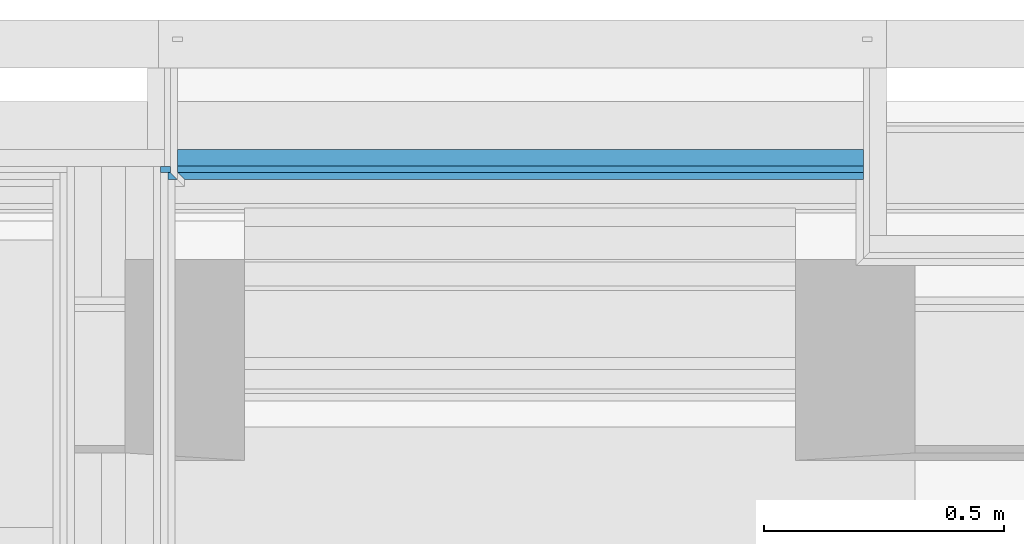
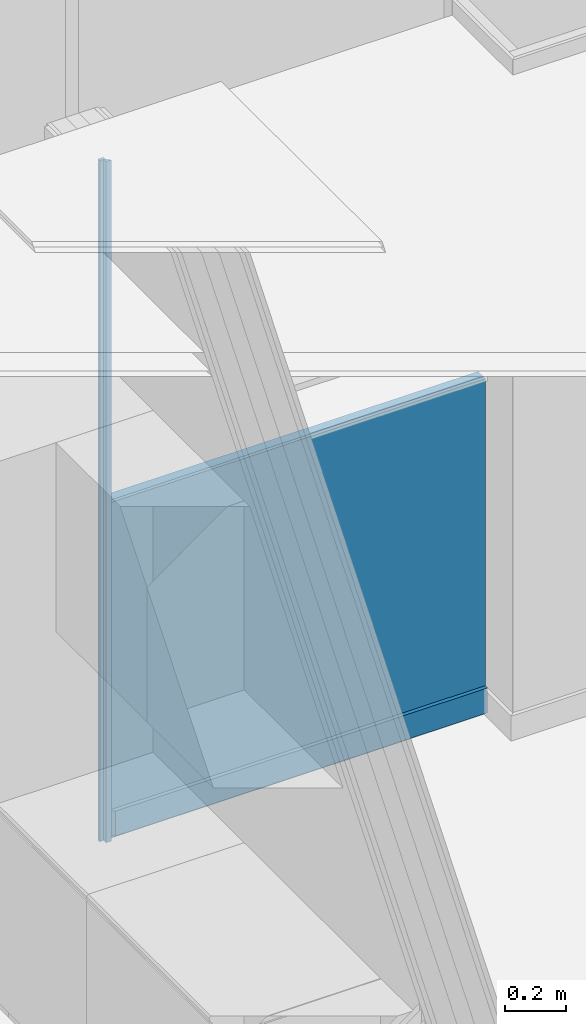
# One storey, part 28 of 169: 5 building element parts, 2 elements without a shape of their own.
"""IFC2X3 building model written with IfcOpenShell, lengths in metres."""

from ifc_helpers import new_model, entity, si_unit, converted_unit, derived_unit, money_unit, direction, frame, frame_2d, origin_with_axes, place, context, subcontext, project, spatial, polyline, rectangle, outline, extrude, material, type_object, element, aggregate, save


model = new_model("IFC2X3")

# Units and contexts
model_context = context("Model", 3, precision=1e-05, world=origin_with_axes(), true_north=direction((0.0, 1.0)))
body_context = subcontext(model_context, "Body", "Model", "MODEL_VIEW", scale=1.0)
ifc_project = project(units=[si_unit("LENGTHUNIT", "METRE"), si_unit("AREAUNIT", "SQUARE_METRE"), si_unit("VOLUMEUNIT", "CUBIC_METRE"), si_unit("ABSORBEDDOSEUNIT", "GRAY"), si_unit("AMOUNTOFSUBSTANCEUNIT", "MOLE"), si_unit("DOSEEQUIVALENTUNIT", "SIEVERT"), si_unit("ELECTRICCAPACITANCEUNIT", "FARAD"), si_unit("ELECTRICCHARGEUNIT", "COULOMB"), si_unit("ELECTRICCONDUCTANCEUNIT", "SIEMENS"), si_unit("ELECTRICCURRENTUNIT", "AMPERE"), si_unit("ELECTRICRESISTANCEUNIT", "OHM"), si_unit("ELECTRICVOLTAGEUNIT", "VOLT"), si_unit("ENERGYUNIT", "JOULE"), si_unit("FORCEUNIT", "NEWTON"), si_unit("FREQUENCYUNIT", "HERTZ"), si_unit("ILLUMINANCEUNIT", "LUX"), si_unit("INDUCTANCEUNIT", "HENRY"), si_unit("LUMINOUSFLUXUNIT", "LUMEN"), si_unit("LUMINOUSINTENSITYUNIT", "CANDELA"), si_unit("MAGNETICFLUXDENSITYUNIT", "TESLA"), si_unit("MAGNETICFLUXUNIT", "WEBER"), si_unit("MASSUNIT", "GRAM"), converted_unit("PLANEANGLEUNIT", "degree", entity("IfcReal", 0.0174532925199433), si_unit("PLANEANGLEUNIT", "RADIAN"), dimensions=[0, 0, 0, 0, 0, 0, 0]), si_unit("POWERUNIT", "WATT"), si_unit("PRESSUREUNIT", "PASCAL"), si_unit("RADIOACTIVITYUNIT", "BECQUEREL"), si_unit("SOLIDANGLEUNIT", "STERADIAN"), si_unit("THERMODYNAMICTEMPERATUREUNIT", "KELVIN"), si_unit("TIMEUNIT", "SECOND"), derived_unit("ACCELERATIONUNIT", [(si_unit("LENGTHUNIT", "METRE"), 1), (si_unit("TIMEUNIT", "SECOND"), -2)]), derived_unit("ANGULARVELOCITYUNIT", [(converted_unit("PLANEANGLEUNIT", "degree", entity("IfcReal", 0.0174532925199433), si_unit("PLANEANGLEUNIT", "RADIAN"), dimensions=[0, 0, 0, 0, 0, 0, 0]), 1), (si_unit("TIMEUNIT", "SECOND"), -1)]), derived_unit("CURVATUREUNIT", [(converted_unit("PLANEANGLEUNIT", "degree", entity("IfcReal", 0.0174532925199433), si_unit("PLANEANGLEUNIT", "RADIAN"), dimensions=[0, 0, 0, 0, 0, 0, 0]), 1), (si_unit("LENGTHUNIT", "METRE"), -1)]), derived_unit("DYNAMICVISCOSITYUNIT", [(si_unit("PRESSUREUNIT", "PASCAL"), 1), (si_unit("TIMEUNIT", "SECOND"), 1)]), derived_unit("HEATFLUXDENSITYUNIT", [(si_unit("POWERUNIT", "WATT"), 1), (si_unit("LENGTHUNIT", "METRE"), -2)]), derived_unit("HEATINGVALUEUNIT", [(si_unit("ENERGYUNIT", "JOULE"), 1), (si_unit("MASSUNIT", "GRAM"), -1)]), derived_unit("INTEGERCOUNTRATEUNIT", [(si_unit("TIMEUNIT", "SECOND"), -1)]), derived_unit("IONCONCENTRATIONUNIT", [(si_unit("MASSUNIT", "GRAM"), 1), (si_unit("VOLUMEUNIT", "CUBIC_METRE"), -1)]), derived_unit("ISOTHERMALMOISTURECAPACITYUNIT", [(si_unit("VOLUMEUNIT", "CUBIC_METRE"), 1), (si_unit("MASSUNIT", "GRAM"), -1)]), derived_unit("KINEMATICVISCOSITYUNIT", [(si_unit("AREAUNIT", "SQUARE_METRE"), 1), (si_unit("TIMEUNIT", "SECOND"), -1)]), derived_unit("LINEARFORCEUNIT", [(si_unit("FORCEUNIT", "NEWTON"), 1), (si_unit("LENGTHUNIT", "METRE"), -1)]), derived_unit("LINEARMOMENTUNIT", [(si_unit("FORCEUNIT", "NEWTON"), 1), (si_unit("LENGTHUNIT", "METRE"), -1)]), derived_unit("LINEARSTIFFNESSUNIT", [(si_unit("FORCEUNIT", "NEWTON"), 1), (si_unit("LENGTHUNIT", "METRE"), -1)]), derived_unit("LINEARVELOCITYUNIT", [(si_unit("LENGTHUNIT", "METRE"), 1), (si_unit("TIMEUNIT", "SECOND"), -1)]), derived_unit("LUMINOUSINTENSITYDISTRIBUTIONUNIT", [(si_unit("LUMINOUSINTENSITYUNIT", "CANDELA"), 1), (si_unit("LUMINOUSFLUXUNIT", "LUMEN"), -1)]), derived_unit("MASSDENSITYUNIT", [(si_unit("MASSUNIT", "GRAM"), 1), (si_unit("VOLUMEUNIT", "CUBIC_METRE"), -1)]), derived_unit("MASSFLOWRATEUNIT", [(si_unit("MASSUNIT", "GRAM"), 1), (si_unit("TIMEUNIT", "SECOND"), -1)]), derived_unit("MASSPERLENGTHUNIT", [(si_unit("MASSUNIT", "GRAM"), 1), (si_unit("LENGTHUNIT", "METRE"), -1)]), derived_unit("MODULUSOFELASTICITYUNIT", [(si_unit("FORCEUNIT", "NEWTON"), 1), (si_unit("AREAUNIT", "SQUARE_METRE"), -1)]), derived_unit("MODULUSOFLINEARSUBGRADEREACTIONUNIT", [(si_unit("FORCEUNIT", "NEWTON"), 1), (si_unit("LENGTHUNIT", "METRE"), -2)]), derived_unit("MODULUSOFROTATIONALSUBGRADEREACTIONUNIT", [(si_unit("FORCEUNIT", "NEWTON"), 1), (si_unit("LENGTHUNIT", "METRE"), 1)]), derived_unit("MODULUSOFSUBGRADEREACTIONUNIT", [(si_unit("FORCEUNIT", "NEWTON"), 1), (si_unit("VOLUMEUNIT", "CUBIC_METRE"), -1)]), derived_unit("MOISTUREDIFFUSIVITYUNIT", [(si_unit("VOLUMEUNIT", "CUBIC_METRE"), 1), (si_unit("TIMEUNIT", "SECOND"), -1)]), derived_unit("MOLECULARWEIGHTUNIT", [(si_unit("MASSUNIT", "GRAM"), 1), (si_unit("AMOUNTOFSUBSTANCEUNIT", "MOLE"), -1)]), derived_unit("PLANARFORCEUNIT", [(si_unit("FORCEUNIT", "NEWTON"), 1), (si_unit("LENGTHUNIT", "METRE"), -2)]), derived_unit("ROTATIONALFREQUENCYUNIT", [(si_unit("TIMEUNIT", "SECOND"), -1)]), derived_unit("ROTATIONALMASSUNIT", [(si_unit("MASSUNIT", "GRAM"), 1), (si_unit("LENGTHUNIT", "METRE"), 2)]), derived_unit("ROTATIONALSTIFFNESSUNIT", [(si_unit("FORCEUNIT", "NEWTON"), 1), (si_unit("LENGTHUNIT", "METRE"), 1), (converted_unit("PLANEANGLEUNIT", "degree", entity("IfcReal", 0.0174532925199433), si_unit("PLANEANGLEUNIT", "RADIAN"), dimensions=[0, 0, 0, 0, 0, 0, 0]), -1)]), derived_unit("SECTIONAREAINTEGRALUNIT", [(si_unit("LENGTHUNIT", "METRE"), 5)]), derived_unit("SECTIONMODULUSUNIT", [(si_unit("LENGTHUNIT", "METRE"), 3)]), derived_unit("SHEARMODULUSUNIT", [(si_unit("FORCEUNIT", "NEWTON"), 1), (si_unit("AREAUNIT", "SQUARE_METRE"), -1)]), derived_unit("SOUNDPOWERUNIT", [(si_unit("ENERGYUNIT", "JOULE"), 1), (si_unit("TIMEUNIT", "SECOND"), -1)]), derived_unit("SPECIFICHEATCAPACITYUNIT", [(si_unit("FORCEUNIT", "NEWTON"), 1), (si_unit("MASSUNIT", "GRAM"), -1), (si_unit("THERMODYNAMICTEMPERATUREUNIT", "KELVIN"), -1)]), derived_unit("TEMPERATUREGRADIENTUNIT", [(si_unit("THERMODYNAMICTEMPERATUREUNIT", "KELVIN"), 1), (si_unit("LENGTHUNIT", "METRE"), -1)]), derived_unit("THERMALADMITTANCEUNIT", [(si_unit("POWERUNIT", "WATT"), 1), (si_unit("AREAUNIT", "SQUARE_METRE"), -1), (si_unit("THERMODYNAMICTEMPERATUREUNIT", "KELVIN"), -1)]), derived_unit("THERMALCONDUCTANCEUNIT", [(si_unit("POWERUNIT", "WATT"), 1), (si_unit("LENGTHUNIT", "METRE"), -1), (si_unit("THERMODYNAMICTEMPERATUREUNIT", "KELVIN"), -1)]), derived_unit("THERMALEXPANSIONCOEFFICIENTUNIT", [(si_unit("THERMODYNAMICTEMPERATUREUNIT", "KELVIN"), -1)]), derived_unit("THERMALRESISTANCEUNIT", [(si_unit("AREAUNIT", "SQUARE_METRE"), 1), (si_unit("POWERUNIT", "WATT"), -1)]), derived_unit("THERMALTRANSMITTANCEUNIT", [(si_unit("POWERUNIT", "WATT"), 1), (si_unit("AREAUNIT", "SQUARE_METRE"), -1), (si_unit("THERMODYNAMICTEMPERATUREUNIT", "KELVIN"), -1)]), derived_unit("TORQUEUNIT", [(si_unit("FORCEUNIT", "NEWTON"), 1), (si_unit("LENGTHUNIT", "METRE"), 1)]), derived_unit("VAPORPERMEABILITYUNIT", [(si_unit("MASSUNIT", "GRAM"), 1), (si_unit("TIMEUNIT", "SECOND"), -1)]), derived_unit("VOLUMETRICFLOWRATEUNIT", [(si_unit("VOLUMEUNIT", "CUBIC_METRE"), 1), (si_unit("TIMEUNIT", "SECOND"), -1)]), derived_unit("WARPINGCONSTANTUNIT", [(si_unit("LENGTHUNIT", "METRE"), 6)]), derived_unit("WARPINGMOMENTUNIT", [(si_unit("FORCEUNIT", "NEWTON"), 1), (si_unit("LENGTHUNIT", "METRE"), 2)]), money_unit("GBP")], contexts=[model_context])

# Site, building, storey
site_placement = place(None, origin_with_axes())
site = spatial("IfcSite", under=ifc_project, at=site_placement, Name="Site", CompositionType="ELEMENT")
building_placement = place(site_placement, origin_with_axes())
building = spatial("IfcBuilding", under=site, at=building_placement, Name="Building01", CompositionType="ELEMENT")
storey_placement = place(building_placement, frame((0.0, 0.0, 5.15), z_axis=(0.0, 0.0, 1.0), x_axis=(1.0, 0.0, 0.0)))
storey = spatial("IfcBuildingStorey", under=building, at=storey_placement, Name="1F", CompositionType="ELEMENT", Elevation=5.15)

# Wall, building element parts
wall_type_1 = type_object("IfcWallType", Name="SHE_A-Walls_Type06f_ExternalWallInsulation_48+15mm", PredefinedType="NOTDEFINED")
wall_1_placement = place(storey_placement, frame((7.283, 14.612, 0.0), z_axis=(0.0, 0.0, 1.0), x_axis=(-1.0, 0.0, 0.0)))
wall_1 = element("IfcWall", 1, at=wall_1_placement, inside=storey, type_object=wall_type_1, Name="6F", ObjectType="SHE_A-Walls_Type06f_ExternalWallInsulation_48+15mm")
ifc_material_1 = material(Name="A_BSUK_WallInternal_Finishes_Plasterboard")
placement_1 = place(wall_1_placement, origin_with_axes())
building_element_part_1 = element("IfcBuildingElementPart", 2, at=placement_1, material=ifc_material_1, Name="3", context=body_context, shape_type="SweptSolid", body=[
    extrude(rectangle(XDim=0.020331, YDim=0.012, at=frame_2d((-0.001834, 0.024), x_axis=(-1.0, 0.0))), origin_with_axes(), (0.0, 0.0, 1.0), 2.74),
])
building_element_part_2 = element("IfcBuildingElementPart", 3, at=placement_1, material=ifc_material_1, Name="4", context=body_context, shape_type="SweptSolid", body=[
    extrude(outline(polyline([(-0.006669, 0.045), (-0.027, 0.045), (-0.012, 0.03), (-0.006669, 0.03), (-0.006669, 0.045)])), origin_with_axes(), (0.0, 0.0, 1.0), 2.74),
])
aggregate(wall_1, [building_element_part_1, building_element_part_2])

wall_type_2 = type_object("IfcWallType", Name="SHE_A-Walls_Type06d_ExternalWallInsulation_48mm", PredefinedType="NOTDEFINED")
wall_2_placement = place(storey_placement, frame((8.742, 14.594, 0.0), z_axis=(0.0, 0.0, 1.0), x_axis=(-1.0, 0.0, 0.0)))
wall_2 = element("IfcWall", 4, at=wall_2_placement, inside=storey, type_object=wall_type_2, Name="6D", ObjectType="SHE_A-Walls_Type06d_ExternalWallInsulation_48mm")
ifc_material_2 = material(Name="A_BSUK_Insulation")
placement_2 = place(wall_2_placement, origin_with_axes())
building_element_part_3 = element("IfcBuildingElementPart", 5, at=placement_2, material=ifc_material_2, Name="1", context=body_context, shape_type="SweptSolid", body=[
    extrude(rectangle(XDim=1.432, YDim=0.036, at=frame_2d((0.716, -0.018), x_axis=(-1.0, 0.0))), origin_with_axes(), (0.0, 0.0, 1.0), 1.35),
])
building_element_part_4 = element("IfcBuildingElementPart", 6, at=placement_2, material=ifc_material_1, Name="2", context=body_context, shape_type="SweptSolid", body=[
    extrude(rectangle(XDim=1.432, YDim=0.013, at=frame_2d((0.716, 0.0055), x_axis=(-1.0, 0.0))), origin_with_axes(), (0.0, 0.0, 1.0), 1.35),
])
ifc_material_3 = material(Name="A_BSUK_Walls_Timber")
building_element_part_5 = element("IfcBuildingElementPart", 7, at=placement_2, material=ifc_material_3, Name="3", context=body_context, shape_type="SweptSolid", body=[
    extrude(outline(polyline([(1.417, 0.027), (0.0, 0.027), (0.0, 0.012), (1.432, 0.012), (1.417, 0.027)])), frame((0.0, 0.0, 0.015), z_axis=(0.0, 0.0, 1.0), x_axis=(1.0, 0.0, 0.0)), (0.0, 0.0, 1.0), 0.1),
])
aggregate(wall_2, [building_element_part_3, building_element_part_4, building_element_part_5])

save(model, "model.ifc")
